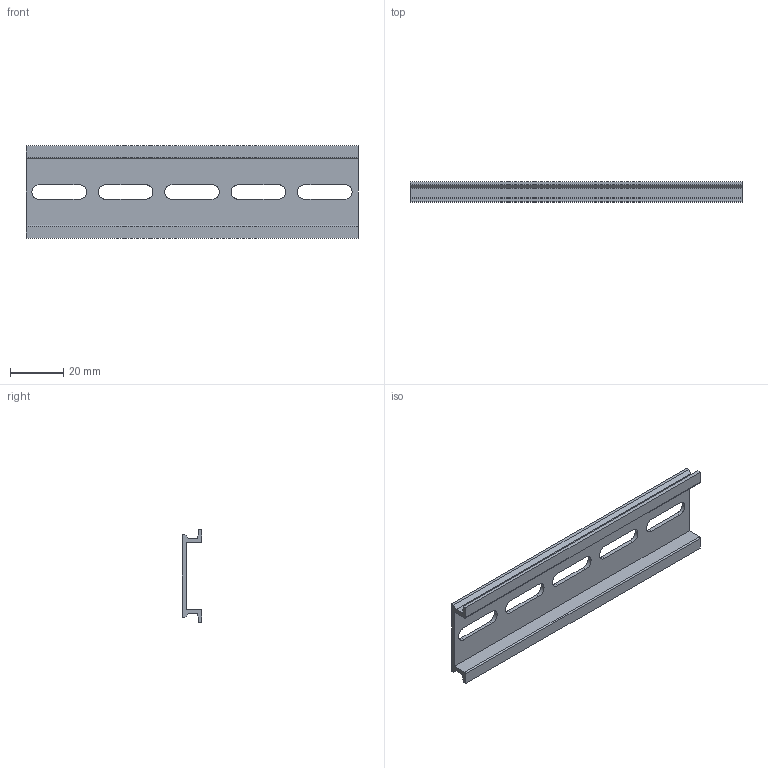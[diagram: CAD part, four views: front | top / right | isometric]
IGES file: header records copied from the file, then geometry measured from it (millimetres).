
Start section: ------------------------------------------------------------------------
Global section: file name: D:\ICADMX\tmp\trans3d_spg\CVICAD02.21224.DIN-RAIL125_7746.igs; native system: spGate; preprocessor: ver12.6.6; author: Unknown; organization: Unknown; date: 200901.142012; units: millimetre
Bounding box: 125 x 7.5 x 35 mm (x, y, z)
Volume: 8824.8 mm3; surface area: 11908 mm2
Topology: 1 solids, 1 shells, 40 faces, 114 edges, 76 vertices
Faces by surface type: bspline 40
